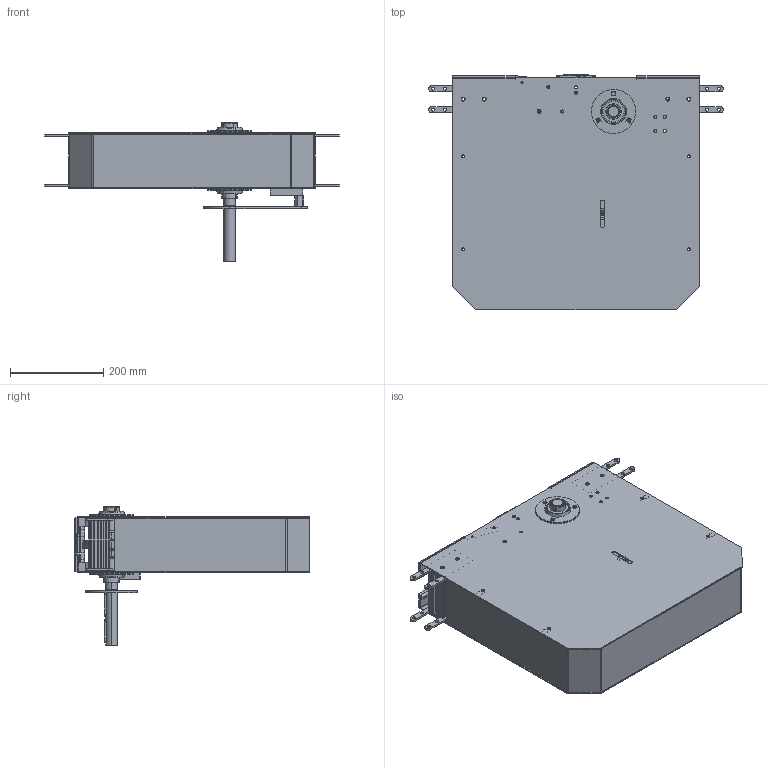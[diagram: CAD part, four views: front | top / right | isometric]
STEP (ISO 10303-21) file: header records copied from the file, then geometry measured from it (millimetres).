
FILE_DESCRIPTION (( 'STEP AP203' ), '1' );
FILE_NAME ('2000.450.663.STEP', '2018-03-12T08:59:37', ( '' ), ( '' ), 'SwSTEP 2.0', 'SolidWorks 2016', '' );
FILE_SCHEMA (( 'CONFIG_CONTROL_DESIGN' ));
Length unit declared in the file: millimetre
Products named in the file (24): 2000.450.663; 084.802.027; 084.808.005-1; 2000.450.201-1; 2000.450.002; 2000.001.402; 2000.450.603; 2000.001.903; 2000.450.604; 2000.450.102-1; 2000.325.608; 2000.450.602; 2000.001.011; 2000.450.607; 2000.450.005_Default<A macchina>; Rexnord-S0672-S0672-687432; 2000.325.601; RUOTE DI TRAINO NS880_NS880T12R25; 2000.325.602; SBPF205; 2000.450.605; 2000.450.601_Default<A macchina>; Rexnord-S0672-S0672-687432_687432; CHIAVETTE_A 8x7x50 UNI 6604-69
Assembly tree (44 placements, depth 3):
  2000.450.663
    2000.001.903
    2000.450.201-1  x2
    SBPF205  x2
    RUOTE DI TRAINO NS880_NS880T12R25
    2000.450.603
    2000.325.608
    2000.001.402  x4
    2000.450.604
    2000.450.002  x2
    2000.325.601  x4
    2000.450.605  x4
    2000.325.602  x2
    2000.450.601_Default<A macchina>  x4
    2000.450.005_Default<A macchina>  x2
    Rexnord-S0672-S0672-687432  x2
      Rexnord-S0672-S0672-687432_687432
    2000.450.102-1
    084.808.005-1
    2000.001.011
    084.802.027
    CHIAVETTE_A 8x7x50 UNI 6604-69  x3
    2000.450.602
    2000.450.607  x2
Bounding box: 633 x 506.5 x 300 mm (x, y, z)
Volume: 4529433.4 mm3; surface area: 2207516.2 mm2
Topology: 39 solids, 105 shells, 3304 faces, 8491 edges, 5333 vertices
Faces by surface type: cylinder 1306, plane 1026, torus 582, cone 250, bspline 78, sphere 62
Entity records: 66284 total; most frequent: CARTESIAN_POINT 15456, DIRECTION 10735, ORIENTED_EDGE 9387, EDGE_CURVE 4853, AXIS2_PLACEMENT_3D 4292, VERTEX_POINT 3019, CIRCLE 2336, EDGE_LOOP 2237
